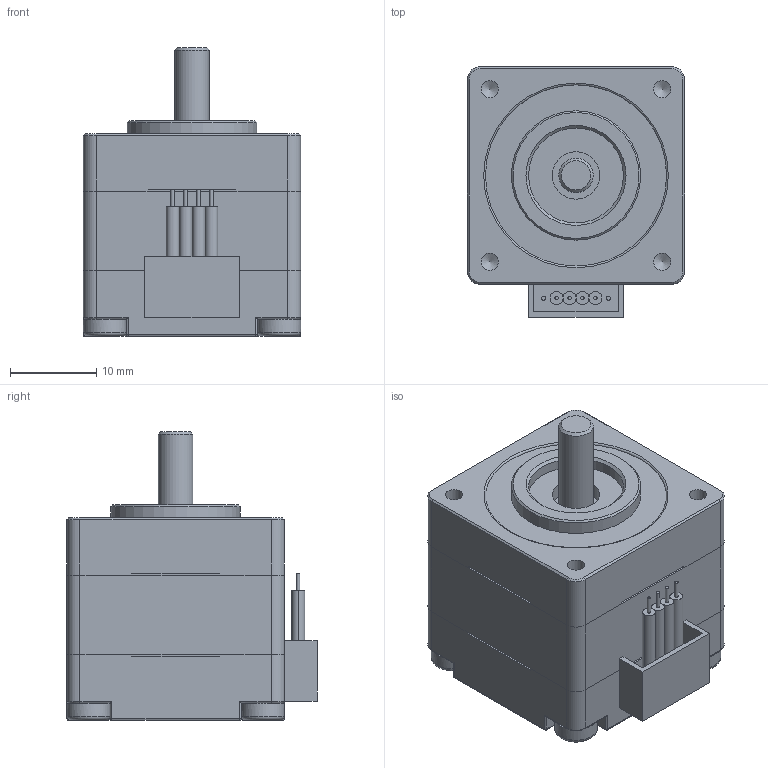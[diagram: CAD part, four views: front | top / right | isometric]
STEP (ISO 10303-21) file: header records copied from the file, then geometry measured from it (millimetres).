
FILE_DESCRIPTION(/* description */ (''),/* implementation_level */ '2;1');
FILE_NAME(/* name */ 'C:\Users\raffaele\Downloads\Projects\E&D\ipt-to-step-conversion\25SH.stp',/* time_stamp */ '2021-02-10T15:34:25+01:00',/* author */ ('AOM'),/* organization */ (''),/* preprocessor_version */ 'ST-DEVELOPER v18',/* originating_system */ 'Autodesk Inventor 2020',/* authorisation */ '');
FILE_SCHEMA (('AUTOMOTIVE_DESIGN { 1 0 10303 214 3 1 1 }'));
Length unit declared in the file: millimetre
Products named in the file (1): 25SH
Bounding box: 25.22 x 29.01 x 33.5 mm (x, y, z)
Volume: 15076.5 mm3; surface area: 4774.9 mm2
Topology: 1 solids, 1 shells, 288 faces, 715 edges, 444 vertices
Faces by surface type: plane 167, cylinder 87, torus 14, cone 12, sphere 8
Full cylindrical faces by diameter (mm): 0.405 x4, 0.45 x2, 1.5 x1, 2.013 x4, 4 x2, 5 x4, 5.5 x2, 11 x1, 15 x1
Entity records: 8512 total; most frequent: DIRECTION 1539, CARTESIAN_POINT 1444, ORIENTED_EDGE 1422, EDGE_CURVE 711, AXIS2_PLACEMENT_3D 539, LINE 461, VECTOR 461, VERTEX_POINT 444
